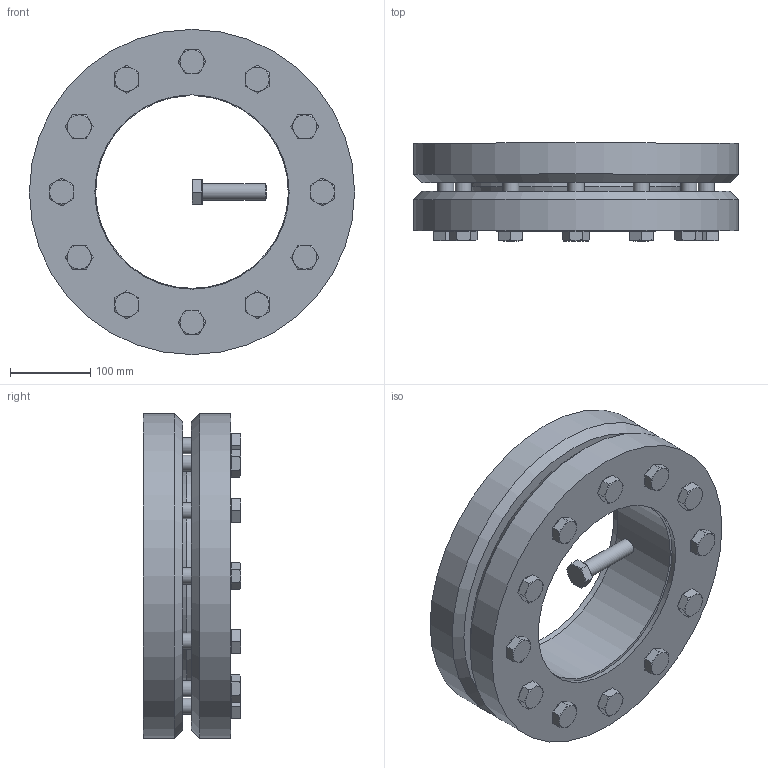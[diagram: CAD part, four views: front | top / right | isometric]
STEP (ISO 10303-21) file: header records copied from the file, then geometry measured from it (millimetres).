
FILE_DESCRIPTION( ( 'Unknown' ), '1' );
FILE_NAME( 'C:/Dokumente und Einstellungen/Sven/Desktop/homepage/cad - homepage/KBS19/KBS 19 - 240 x 405.stp', 'Unknown', ( 'Unknown' ), ( 'Unknown' ), 'XStep 1.0', 'Unknown', ' ' );
FILE_SCHEMA( ( 'automotive_design' ) );
Length unit declared in the file: millimetre
Products named in the file (3): Assem1; KBS 19 - 240 x 405; ISO 4017 - M20 x 80-N
Bounding box: 405 x 121.5 x 405 mm (x, y, z)
Volume: 16026275.7 mm3; surface area: 1255126.7 mm2
Topology: 15 solids, 15 shells, 419 faces, 978 edges, 602 vertices
Faces by surface type: plane 223, cone 103, cylinder 80, torus 13
Full cylindrical faces by diameter (mm): 20 x61, 30 x13, 405 x4
Entity records: 2592 total; most frequent: CARTESIAN_POINT 409, DIRECTION 382, ORIENTED_EDGE 284, AXIS2_PLACEMENT_3D 170, EDGE_LOOP 159, EDGE_CURVE 142, VERTEX_POINT 109, FACE_OUTER_BOUND 101
